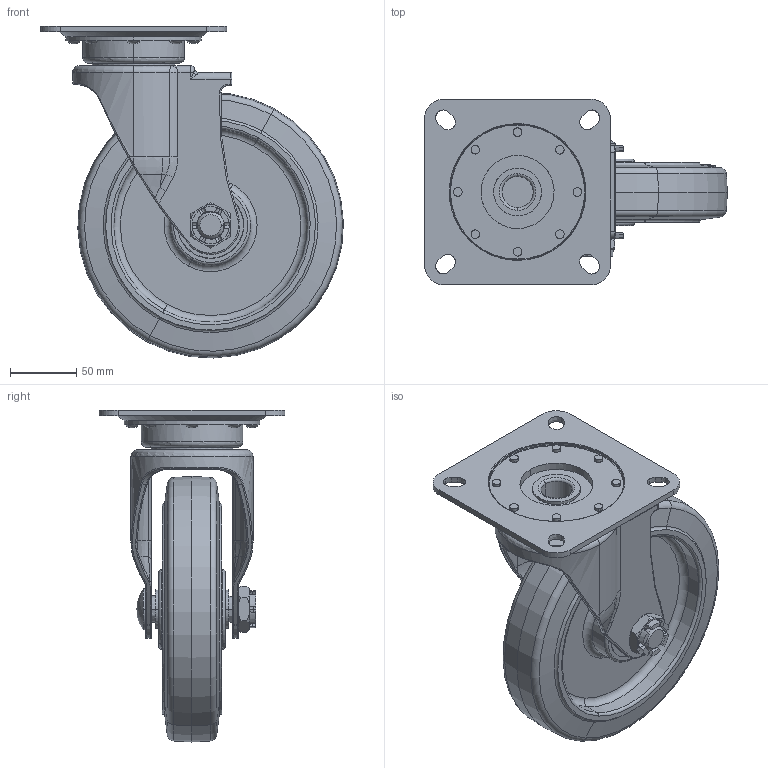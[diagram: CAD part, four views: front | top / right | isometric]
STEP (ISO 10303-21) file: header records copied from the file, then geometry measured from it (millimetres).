
FILE_DESCRIPTION(('CATIA V5 STEP Exchange'),'2;1');
FILE_NAME('Y:\中荷重用キャスター\TUS\TUS-200AWJ_131015.stp','2014-07-07T02:02:44+00:00',('none'),('none'),'Version 5-6 Release 2012','CATIA V5 STEP AP214','none');
FILE_SCHEMA(('AUTOMOTIVE_DESIGN { 1 0 10303 214 1 1 1 1 }'));
Products named in the file (1): TUS-200AWJ
Bounding box: 227.97 x 140 x 249.97 mm (x, y, z)
Volume: 1123956 mm3; surface area: 355474.2 mm2
Topology: 52 solids, 68 shells, 1001 faces, 2601 edges, 1521 vertices
Faces by surface type: plane 338, bspline 231, sphere 157, cylinder 125, torus 117, cone 21, extrusion 12
Entity records: 44284 total; most frequent: CARTESIAN_POINT 25132, ORIENTED_EDGE 4668, EDGE_CURVE 2302, DIRECTION 2242, VERTEX_POINT 1482, EDGE_LOOP 1122, AXIS2_PLACEMENT_3D 1067, ADVANCED_FACE 1001
